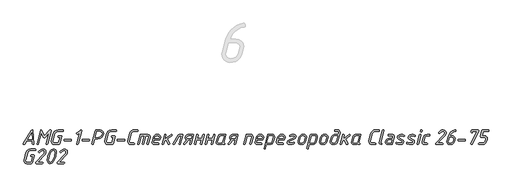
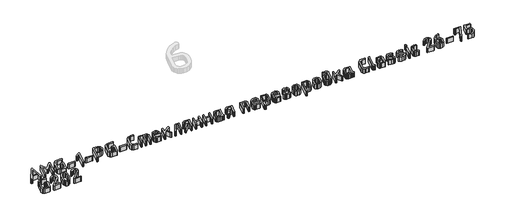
# One storey, part 8 of 22: 1 proxy.
"""IFC4 building model written with IfcOpenShell, lengths in millimetres."""

from ifc_helpers import new_model, si_unit, origin, origin_with_axes, place, context, project, spatial, polyline, outline, extrude, element, save

model = new_model("IFC4")

# Units and contexts
model_context = context("Model", 3, world=origin())
ifc_project = project(units=[si_unit("LENGTHUNIT", "METRE", prefix="MILLI")], contexts=[model_context])

# Site, building, storey
site = spatial("IfcSite", under=ifc_project)
building = spatial("IfcBuilding", under=site)
storey = spatial("IfcBuildingStorey", under=building, Name="Уровень 1", Elevation=0.0)

# Proxy
placement = place(None, origin())
element("IfcBuildingElementProxy", 1, Name="30", ObjectType="30", at=placement, inside=storey, context=model_context, shape_type="SweptSolid", body=[
    extrude(outline(polyline([(-36154.4219264, -35495.2113625), (-36210.5539274, -35495.2113625), (-36231.3287604, -35529.8494015), (-36237.7210168, -35533.5649005), (-36243.0345798, -35531.3276108), (-36245.1919664, -35526.0140477), (-36244.0733215, -35522.0188875), (-36161.4534084, -35386.2633437), (-36154.9812489, -35382.7076511), (-36149.6277342, -35384.4455458), (-36147.4703477, -35389.6592298), (-36137.0429795, -35526.2537573), (-36138.9406806, -35531.7371147), (-36144.6337839, -35533.5649005), (-36149.9573349, -35531.7970421), (-36152.0248303, -35526.493467), (-36154.4219264, -35495.2113625)]), holes=[polyline([(-36155.5405713, -35479.8699473), (-36160.6543764, -35413.3904815), (-36201.3251073, -35479.8699473), (-36155.5405713, -35479.8699473)])]), origin_with_axes(), (0.0, 0.0, 1.0), 50.0),
    extrude(outline(polyline([(-36059.3371135, -35413.3505299), (-36089.9000891, -35527.9716762), (-36092.4370158, -35532.1665945), (-36097.0913775, -35533.5649005), (-36102.3649889, -35531.3276108), (-36104.6821818, -35526.2537573), (-36104.362569, -35523.976516), (-36068.0865143, -35388.3008754), (-36065.5595755, -35384.1059572), (-36060.9351776, -35382.7076511), (-36053.9036956, -35387.2621337), (-36029.8128796, -35444.5527311), (-35973.0816046, -35385.1047472), (-35967.7680415, -35382.7076511), (-35962.1348656, -35384.5654006), (-35960.2571403, -35390.1386491), (-35960.49685, -35392.2960356), (-35996.732953, -35527.9716762), (-35999.3198193, -35532.1665945), (-36003.8842898, -35533.5649005), (-36009.1778771, -35531.3276108), (-36011.5150458, -35526.2537573), (-36011.1554814, -35523.976516), (-35982.5101827, -35416.6665129), (-36027.0961706, -35463.1701777), (-36032.4097337, -35465.4074674), (-36039.2414576, -35460.8929364), (-36059.3371135, -35413.3505299)])), origin_with_axes(), (0.0, 0.0, 1.0), 50.0),
    extrude(outline(polyline([(-35842.6795754, -35398.0490663), (-35891.3406268, -35398.0490663), (-35904.0052846, -35400.8356905), (-35914.512556, -35409.1955633), (-35920.5452479, -35420.5817699), (-35940.7607585, -35495.6907818), (-35941.5597906, -35501.2840061), (-35936.3860581, -35513.5491479), (-35923.5016664, -35518.2234853), (-35884.6287576, -35518.2234853), (-35868.4883104, -35459.4147271), (-35882.2316615, -35459.4147271), (-35887.8648374, -35457.4970502), (-35889.7425627, -35451.7440195), (-35887.8648374, -35445.9909888), (-35882.2316615, -35444.0733119), (-35856.782491, -35444.0733119), (-35852.3478631, -35445.4316663), (-35850.8696539, -35449.5067298), (-35850.9895087, -35451.5442615), (-35871.1251161, -35526.0939509), (-35874.6108934, -35531.6971631), (-35880.9931618, -35533.5649005), (-35927.5767298, -35533.5649005), (-35941.7995002, -35529.4199218), (-35952.8261424, -35516.9849857), (-35957.0210606, -35502.1229897), (-35956.2220285, -35495.8505882), (-35936.1263727, -35420.4219634), (-35926.1784238, -35399.6471304), (-35909.5186057, -35386.9425209), (-35887.2256117, -35382.7076511), (-35842.6795754, -35382.7076511), (-35837.0763632, -35384.625328), (-35835.2086258, -35390.3783587), (-35837.0763632, -35396.1313894), (-35842.6795754, -35398.0490663)])), origin_with_axes(), (0.0, 0.0, 1.0), 50.0),
    extrude(outline(polyline([(-35758.9809691, -35495.2113625), (-35821.0657587, -35495.2113625), (-35826.6689709, -35493.2936856), (-35828.5367083, -35487.5406549), (-35826.6689709, -35481.7876242), (-35821.0657587, -35479.8699473), (-35758.9809691, -35479.8699473), (-35753.3777569, -35481.7876242), (-35751.5100195, -35487.5406549), (-35753.3777569, -35493.2936856), (-35758.9809691, -35495.2113625)])), origin_with_axes(), (0.0, 0.0, 1.0), 50.0),
    extrude(outline(polyline([(-35667.0123811, -35409.7948373), (-35688.4663914, -35426.294849), (-35694.0596157, -35427.7730582), (-35699.1134934, -35424.9964219), (-35700.5317752, -35419.3432702), (-35697.5753567, -35414.3493199), (-35658.5026899, -35385.2645536), (-35654.068062, -35382.7076511), (-35648.4348861, -35384.5654006), (-35646.5571608, -35390.1386491), (-35646.7968704, -35392.2960356), (-35683.0329735, -35527.9716762), (-35685.6198398, -35532.1665945), (-35690.1843103, -35533.5649005), (-35695.4778976, -35531.3276108), (-35697.8150663, -35526.2537573), (-35697.4555019, -35523.976516), (-35667.0123811, -35409.7948373)])), origin_with_axes(), (0.0, 0.0, 1.0), 50.0),
    extrude(outline(polyline([(-35572.3270842, -35495.2113625), (-35634.4118738, -35495.2113625), (-35640.015086, -35493.2936856), (-35641.8828234, -35487.5406549), (-35640.015086, -35481.7876242), (-35634.4118738, -35479.8699473), (-35572.3270842, -35479.8699473), (-35566.723872, -35481.7876242), (-35564.8561346, -35487.5406549), (-35566.723872, -35493.2936856), (-35572.3270842, -35495.2113625)])), origin_with_axes(), (0.0, 0.0, 1.0), 50.0),
    extrude(outline(polyline([(-35481.7168507, -35474.7561423), (-35512.7592455, -35474.7561423), (-35527.3815318, -35528.091531), (-35529.978386, -35532.1965582), (-35534.5728202, -35533.5649005), (-35539.8464317, -35531.3276108), (-35542.1636246, -35526.2537573), (-35541.8440118, -35523.976516), (-35506.1672311, -35390.2585039), (-35502.7114176, -35384.5953643), (-35496.2592338, -35382.7076511), (-35457.386325, -35382.7076511), (-35440.2570756, -35387.731565), (-35427.063059, -35402.8033069), (-35422.0691088, -35421.1810439), (-35422.948044, -35428.7318967), (-35434.9834641, -35453.3620594), (-35455.3487933, -35469.162918), (-35481.7168507, -35474.7561423)]), holes=[polyline([(-35477.6417873, -35459.4147271), (-35461.1917151, -35455.5194459), (-35446.8391021, -35443.8336023), (-35439.8575596, -35432.7769964), (-35437.5303788, -35421.1810439), (-35440.4768094, -35409.3653576), (-35449.3161014, -35401.085388), (-35461.6211948, -35398.0490663), (-35492.623638, -35398.0490663), (-35508.7640853, -35459.4147271), (-35477.6417873, -35459.4147271)])]), origin_with_axes(), (0.0, 0.0, 1.0), 50.0),
    extrude(outline(polyline([(-35295.5024334, -35398.0490663), (-35344.1634847, -35398.0490663), (-35356.8281426, -35400.8356905), (-35367.3354139, -35409.1955633), (-35373.3681058, -35420.5817699), (-35393.5836165, -35495.6907818), (-35394.3826485, -35501.2840061), (-35389.2089161, -35513.5491479), (-35376.3245244, -35518.2234853), (-35337.4516156, -35518.2234853), (-35321.3111683, -35459.4147271), (-35335.0545194, -35459.4147271), (-35340.6876953, -35457.4970502), (-35342.5654206, -35451.7440195), (-35340.6876953, -35445.9909888), (-35335.0545194, -35444.0733119), (-35309.6053489, -35444.0733119), (-35305.1707211, -35445.4316663), (-35303.6925118, -35449.5067298), (-35303.8123666, -35451.5442615), (-35323.9479741, -35526.0939509), (-35327.4337513, -35531.6971631), (-35333.8160198, -35533.5649005), (-35380.3995878, -35533.5649005), (-35394.6223581, -35529.4199218), (-35405.6490003, -35516.9849857), (-35409.8439185, -35502.1229897), (-35409.0448865, -35495.8505882), (-35388.9492306, -35420.4219634), (-35379.0012817, -35399.6471304), (-35362.3414637, -35386.9425209), (-35340.0484697, -35382.7076511), (-35295.5024334, -35382.7076511), (-35289.8992212, -35384.625328), (-35288.0314838, -35390.3783587), (-35289.8992212, -35396.1313894), (-35295.5024334, -35398.0490663)])), origin_with_axes(), (0.0, 0.0, 1.0), 50.0),
    extrude(outline(polyline([(-35211.803827, -35495.2113625), (-35273.8886167, -35495.2113625), (-35279.4918289, -35493.2936856), (-35281.3595662, -35487.5406549), (-35279.4918289, -35481.7876242), (-35273.8886167, -35479.8699473), (-35211.803827, -35479.8699473), (-35206.2006148, -35481.7876242), (-35204.3328774, -35487.5406549), (-35206.2006148, -35493.2936856), (-35211.803827, -35495.2113625)])), origin_with_axes(), (0.0, 0.0, 1.0), 50.0),
    extrude(outline(polyline([(-35047.2831297, -35434.4050242), (-35044.7262271, -35430.1501786), (-35040.0119381, -35428.7318967), (-34968.0591028, -35428.7318967), (-34955.8339125, -35431.7382547), (-34947.3641729, -35440.7573289), (-34944.3278511, -35452.6629063), (-34945.1268832, -35458.6955982), (-34963.7443297, -35528.0116278), (-34966.331196, -35532.1765824), (-34970.8956665, -35533.5649005), (-34976.1892538, -35531.3675624), (-34978.5264225, -35526.3336606), (-34978.1668581, -35524.0564192), (-34960.6680564, -35458.9752595), (-34959.8690243, -35453.4619384), (-34962.915334, -35446.4204685), (-34972.054263, -35444.0733119), (-34987.5954362, -35444.0733119), (-35010.3278978, -35528.0116278), (-35012.914764, -35532.1765824), (-35017.4792345, -35533.5649005), (-35022.7728218, -35531.3675624), (-35025.1099905, -35526.3336606), (-35024.7903777, -35524.0564192), (-35003.0567062, -35444.0733119), (-35034.2189558, -35444.0733119), (-35056.9114658, -35528.0116278), (-35059.5083199, -35532.1765824), (-35064.1027542, -35533.5649005), (-35069.3763656, -35531.3475866), (-35071.6935585, -35526.293709), (-35071.3739457, -35524.0164676), (-35047.2831297, -35434.4050242)])), origin_with_axes(), (0.0, 0.0, 1.0), 50.0),
    extrude(outline(polyline([(-35112.004725, -35518.2234853), (-35106.3715492, -35520.1411622), (-35104.4938239, -35525.8941929), (-35106.3715492, -35531.6472236), (-35112.004725, -35533.5649005), (-35145.0447, -35533.5649005), (-35159.397313, -35529.3899581), (-35170.4139673, -35516.8651309), (-35174.4890307, -35501.9232317), (-35173.6899987, -35495.8505882), (-35153.7141976, -35420.4219634), (-35146.8924616, -35403.9219518), (-35136.4551055, -35392.1362292), (-35122.4021295, -35385.0647956), (-35104.7335335, -35382.7076511), (-35075.8485252, -35382.7076511), (-35070.2153493, -35384.625328), (-35068.337624, -35390.3783587), (-35070.2153493, -35396.1313894), (-35075.8485252, -35398.0490663), (-35108.8085969, -35398.0490663), (-35121.3533999, -35400.8356905), (-35131.9805261, -35409.1955633), (-35138.1330728, -35420.5817699), (-35158.2287286, -35495.6907818), (-35159.0277607, -35501.2840061), (-35153.8540282, -35513.5491479), (-35140.9696366, -35518.2234853), (-35112.004725, -35518.2234853)])), origin_with_axes(), (0.0, 0.0, 1.0), 50.0),
    extrude(outline(polyline([(-34837.5372188, -35465.4873706), (-34843.5699107, -35487.5406549), (-34905.6147487, -35487.5406549), (-34909.6099089, -35502.8820701), (-34910.408941, -35508.4752944), (-34907.3626313, -35515.7864376), (-34898.2237023, -35518.2234853), (-34861.4282768, -35518.2234853), (-34855.7951009, -35520.1411622), (-34853.9173756, -35525.8941929), (-34855.7951009, -35531.6472236), (-34861.4282768, -35533.5649005), (-34902.2188625, -35533.5649005), (-34911.2778883, -35531.80703), (-34918.9585838, -35526.5334186), (-34924.2022316, -35518.8227594), (-34925.9501142, -35509.7537457), (-34925.1510821, -35503.601199), (-34915.1631816, -35466.1665478), (-34908.3064879, -35448.9274315), (-34898.4434361, -35437.4013943), (-34884.6950911, -35430.8992711), (-34866.1825175, -35428.7318967), (-34854.6614742, -35430.804386), (-34845.1080474, -35437.0218541), (-34838.6808334, -35446.2756439), (-34836.5384287, -35457.4570986), (-34837.5372188, -35465.4873706)]), holes=[polyline([(-34853.1183436, -35465.1677578), (-34851.8798439, -35457.3771954), (-34856.4742782, -35447.3992827), (-34870.2575809, -35444.0733119), (-34889.1946403, -35449.3469234), (-34895.4570539, -35455.9389377), (-34899.5820568, -35465.1677578), (-34901.6595401, -35472.1992397), (-34855.0360205, -35472.1992397), (-34853.1183436, -35465.1677578)])]), origin_with_axes(), (0.0, 0.0, 1.0), 50.0),
    extrude(outline(polyline([(-34778.9681701, -35485.2634136), (-34799.063826, -35500.7246836), (-34806.3350176, -35528.0116278), (-34808.8719443, -35532.1765824), (-34813.5263059, -35533.5649005), (-34818.7999174, -35531.3475866), (-34821.1171103, -35526.293709), (-34820.7974975, -35524.0164676), (-34796.7066815, -35434.2851694), (-34794.1797426, -35430.1202149), (-34789.5553447, -35428.7318967), (-34783.9221688, -35430.5796583), (-34782.0444435, -35436.1229431), (-34782.2442015, -35438.2803296), (-34792.5916664, -35476.9534804), (-34731.9051829, -35431.2887992), (-34727.3906519, -35428.7318967), (-34722.1370162, -35431.009138), (-34719.7598959, -35436.1229431), (-34722.8361692, -35442.2355382), (-34766.8228831, -35475.9147387), (-34744.6497439, -35522.777968), (-34743.8507119, -35525.9740961), (-34746.1279532, -35531.2876592), (-34751.4814679, -35533.5649005), (-34758.1533854, -35529.2501275), (-34778.9681701, -35485.2634136)])), origin_with_axes(), (0.0, 0.0, 1.0), 50.0),
    extrude(outline(polyline([(-34617.2041333, -35428.7318967), (-34611.5709574, -35430.5796583), (-34609.6932321, -35436.1229431), (-34609.9329417, -35438.2803296), (-34634.1436126, -35528.0116278), (-34636.7304788, -35532.1765824), (-34641.2949494, -35533.5649005), (-34646.5885367, -35531.3675624), (-34648.9257054, -35526.3336606), (-34648.566141, -35524.0564192), (-34626.9922758, -35444.0733119), (-34644.0116583, -35444.0733119), (-34697.1073375, -35530.0491595), (-34702.980223, -35533.5649005), (-34708.9130359, -35531.7770663), (-34710.9705434, -35526.4135638), (-34709.8119469, -35522.2186455), (-34654.7186877, -35432.3674925), (-34648.2065765, -35428.7318967), (-34617.2041333, -35428.7318967)])), origin_with_axes(), (0.0, 0.0, 1.0), 50.0),
    extrude(outline(polyline([(-34547.3687329, -35487.5406549), (-34588.2791734, -35531.2477076), (-34593.6326881, -35533.5649005), (-34599.2259124, -35531.707151), (-34601.2234925, -35526.1339025), (-34599.066106, -35520.5406783), (-34567.2646307, -35486.5019133), (-34579.4698452, -35478.0321736), (-34584.0842552, -35464.1290161), (-34583.405078, -35458.1362758), (-34577.8617932, -35444.4977976), (-34570.1011945, -35435.4637416), (-34559.2143829, -35430.4148579), (-34544.2924595, -35428.7318967), (-34507.497034, -35428.7318967), (-34502.2034467, -35430.8892832), (-34499.866278, -35436.0030883), (-34500.2258424, -35438.2803296), (-34524.3965617, -35528.0116278), (-34526.9934158, -35532.1765824), (-34531.5878501, -35533.5649005), (-34537.1910623, -35531.6771873), (-34539.0587997, -35526.0140477), (-34538.8590416, -35523.8167096), (-34529.3106088, -35487.5406549), (-34547.3687329, -35487.5406549)]), holes=[polyline([(-34556.3578434, -35472.1992397), (-34525.3154485, -35472.1992397), (-34517.1253701, -35444.0733119), (-34548.2876197, -35444.0733119), (-34560.7824833, -35447.5890529), (-34568.0636628, -35458.1362758), (-34568.74284, -35463.2500809), (-34565.6465908, -35469.96195), (-34556.3578434, -35472.1992397)])]), origin_with_axes(), (0.0, 0.0, 1.0), 50.0),
    extrude(outline(polyline([(-34419.3637998, -35487.5406549), (-34465.9473679, -35487.5406549), (-34476.4945908, -35527.8518214), (-34479.0614812, -35532.1366308), (-34483.805734, -35533.5649005), (-34489.0593697, -35531.3475866), (-34491.3965384, -35526.293709), (-34491.0769256, -35524.0164676), (-34466.9861095, -35434.2851694), (-34464.4491828, -35430.1202149), (-34459.7948211, -35428.7318967), (-34454.4812581, -35430.80938), (-34452.2040167, -35435.8832335), (-34452.4037748, -35437.9607168), (-34461.9522077, -35472.1992397), (-34415.2487848, -35472.1992397), (-34404.7015619, -35434.125363), (-34402.174623, -35430.0802632), (-34397.5502251, -35428.7318967), (-34391.9170492, -35430.5796583), (-34390.0393239, -35436.1229431), (-34390.2790335, -35438.2803296), (-34414.3698496, -35528.0116278), (-34416.8967884, -35532.1765824), (-34421.5211863, -35533.5649005), (-34426.7947978, -35531.307635), (-34429.1119907, -35526.1339025), (-34428.7923779, -35523.8167096), (-34419.3637998, -35487.5406549)])), origin_with_axes(), (0.0, 0.0, 1.0), 50.0),
    extrude(outline(polyline([(-34309.4169909, -35487.5406549), (-34356.0005589, -35487.5406549), (-34366.5477819, -35527.8518214), (-34369.1146723, -35532.1366308), (-34373.8589251, -35533.5649005), (-34379.1125607, -35531.3475866), (-34381.4497295, -35526.293709), (-34381.1301167, -35524.0164676), (-34357.0393006, -35434.2851694), (-34354.5023739, -35430.1202149), (-34349.8480122, -35428.7318967), (-34344.5344491, -35430.80938), (-34342.2572078, -35435.8832335), (-34342.4569658, -35437.9607168), (-34352.0053987, -35472.1992397), (-34305.3019759, -35472.1992397), (-34294.754753, -35434.125363), (-34292.2278141, -35430.0802632), (-34287.6034162, -35428.7318967), (-34281.9702403, -35430.5796583), (-34280.092515, -35436.1229431), (-34280.3322246, -35438.2803296), (-34304.4230407, -35528.0116278), (-34306.9499795, -35532.1765824), (-34311.5743774, -35533.5649005), (-34316.8479889, -35531.307635), (-34319.1651818, -35526.1339025), (-34318.845569, -35523.8167096), (-34309.4169909, -35487.5406549)])), origin_with_axes(), (0.0, 0.0, 1.0), 50.0),
    extrude(outline(polyline([(-34242.538009, -35533.5649005), (-34251.5970348, -35531.8369937), (-34259.2777303, -35526.6532734), (-34264.5213781, -35519.0225174), (-34266.2692607, -35509.9535037), (-34265.4702286, -35503.601199), (-34253.4447964, -35458.6955982), (-34247.8815358, -35444.7924407), (-34239.8213001, -35435.523669), (-34228.9544643, -35430.4298398), (-34214.332178, -35428.7318967), (-34175.4992208, -35428.7318967), (-34170.6051495, -35430.8693074), (-34169.6662869, -35436.2028463), (-34189.9217491, -35510.7525357), (-34190.2413619, -35512.7900674), (-34188.7431768, -35516.8651309), (-34184.2486216, -35518.2234853), (-34179.0449254, -35520.1411622), (-34178.4556393, -35525.8941929), (-34181.7915981, -35531.6472236), (-34188.2038302, -35533.5649005), (-34198.261646, -35531.3875382), (-34203.6651002, -35524.8554513), (-34212.8140171, -35531.3875382), (-34227.076739, -35533.5649005), (-34242.538009, -35533.5649005)]), holes=[polyline([(-34238.5428488, -35518.2234853), (-34223.0016756, -35518.2234853), (-34210.9962192, -35513.6690027), (-34203.3055358, -35503.401441), (-34187.2849434, -35444.0733119), (-34218.3273382, -35444.0733119), (-34231.0718992, -35447.778823), (-34237.9835264, -35458.8953562), (-34249.9290554, -35503.401441), (-34250.7280875, -35508.6750524), (-34247.6817778, -35515.8363771), (-34238.5428488, -35518.2234853)])]), origin_with_axes(), (0.0, 0.0, 1.0), 50.0),
    extrude(outline(polyline([(-34092.240082, -35487.5406549), (-34133.1505226, -35531.2477076), (-34138.5040372, -35533.5649005), (-34144.0972615, -35531.707151), (-34146.0948416, -35526.1339025), (-34143.9374551, -35520.5406783), (-34112.1359799, -35486.5019133), (-34124.3411943, -35478.0321736), (-34128.9556043, -35464.1290161), (-34128.2764271, -35458.1362758), (-34122.7331423, -35444.4977976), (-34114.9725436, -35435.4637416), (-34104.085732, -35430.4148579), (-34089.1638087, -35428.7318967), (-34052.3683832, -35428.7318967), (-34047.0747959, -35430.8892832), (-34044.7376272, -35436.0030883), (-34045.0971916, -35438.2803296), (-34069.2679108, -35528.0116278), (-34071.864765, -35532.1765824), (-34076.4591992, -35533.5649005), (-34082.0624114, -35531.6771873), (-34083.9301488, -35526.0140477), (-34083.7303908, -35523.8167096), (-34074.1819579, -35487.5406549), (-34092.240082, -35487.5406549)]), holes=[polyline([(-34101.2291925, -35472.1992397), (-34070.1867977, -35472.1992397), (-34061.9967193, -35444.0733119), (-34093.1589689, -35444.0733119), (-34105.6538324, -35447.5890529), (-34112.9350119, -35458.1362758), (-34113.6141891, -35463.2500809), (-34110.51794, -35469.96195), (-34101.2291925, -35472.1992397)])]), origin_with_axes(), (0.0, 0.0, 1.0), 50.0),
    extrude(outline(polyline([(-33960.5995532, -35434.4050242), (-33958.0426507, -35430.1501786), (-33953.3283616, -35428.7318967), (-33912.4179211, -35428.7318967), (-33903.0542643, -35430.4198519), (-33895.4185144, -35435.4837174), (-33890.339667, -35443.1244613), (-33888.6467178, -35452.5430515), (-33889.4457499, -35458.6955982), (-33908.1031481, -35528.0116278), (-33910.6700385, -35532.1765824), (-33915.2544848, -35533.5649005), (-33920.5280963, -35531.3675624), (-33922.8452892, -35526.3336606), (-33922.5256764, -35524.0564192), (-33905.0268747, -35458.9752595), (-33904.2278427, -35453.5817932), (-33907.2641644, -35446.4504322), (-33916.3731297, -35444.0733119), (-33947.5353793, -35444.0733119), (-33970.2278893, -35528.0116278), (-33972.8247434, -35532.1765824), (-33977.4191777, -35533.5649005), (-33982.6927891, -35531.3475866), (-33985.0099821, -35526.293709), (-33984.6903692, -35524.0164676), (-33960.5995532, -35434.4050242)])), origin_with_axes(), (0.0, 0.0, 1.0), 50.0),
    extrude(outline(polyline([(-33781.5364727, -35465.4873706), (-33787.5691646, -35487.5406549), (-33849.6140026, -35487.5406549), (-33853.6091628, -35502.8820701), (-33854.4081949, -35508.4752944), (-33851.3618852, -35515.7864376), (-33842.2229562, -35518.2234853), (-33805.4275307, -35518.2234853), (-33799.7943548, -35520.1411622), (-33797.9166295, -35525.8941929), (-33799.7943548, -35531.6472236), (-33805.4275307, -35533.5649005), (-33846.2181164, -35533.5649005), (-33855.2771422, -35531.80703), (-33862.9578377, -35526.5334186), (-33868.2014855, -35518.8227594), (-33869.9493681, -35509.7537457), (-33869.150336, -35503.601199), (-33859.1624355, -35466.1665478), (-33852.3057418, -35448.9274315), (-33842.44269, -35437.4013943), (-33828.694345, -35430.8992711), (-33810.1817714, -35428.7318967), (-33798.6607281, -35430.804386), (-33789.1073013, -35437.0218541), (-33782.6800873, -35446.2756439), (-33780.5376826, -35457.4570986), (-33781.5364727, -35465.4873706)]), holes=[polyline([(-33797.1175975, -35465.1677578), (-33795.8790978, -35457.3771954), (-33800.4735321, -35447.3992827), (-33814.2568348, -35444.0733119), (-33833.1938942, -35449.3469234), (-33839.4563078, -35455.9389377), (-33843.5813107, -35465.1677578), (-33845.658794, -35472.1992397), (-33799.0352744, -35472.1992397), (-33797.1175975, -35465.1677578)])]), origin_with_axes(), (0.0, 0.0, 1.0), 50.0),
    extrude(outline(polyline([(-33740.7059354, -35434.4449758), (-33738.1490328, -35430.1601665), (-33733.4347438, -35428.7318967), (-33692.5243033, -35428.7318967), (-33683.3604045, -35430.4747853), (-33675.684703, -35435.7034512), (-33670.4860008, -35443.3991286), (-33668.7531, -35452.5430515), (-33669.5521321, -35458.6955982), (-33681.6175159, -35503.601199), (-33687.1657946, -35517.4344412), (-33695.1810848, -35526.6532734), (-33706.2127209, -35531.8369937), (-33720.8100375, -35533.5649005), (-33751.8124807, -35533.5649005), (-33762.3996553, -35573.876067), (-33764.9265941, -35578.1608763), (-33769.5509921, -35579.5891461), (-33774.8445793, -35577.3518564), (-33777.1817481, -35572.2780029), (-33776.8221836, -35570.0007616), (-33740.7059354, -35434.4449758)]), holes=[polyline([(-33727.6417615, -35444.0733119), (-33747.8572721, -35518.2234853), (-33716.7349741, -35518.2234853), (-33703.9604493, -35514.5179742), (-33697.0388343, -35503.401441), (-33685.1332569, -35458.8953562), (-33684.3342248, -35453.50189), (-33687.3705466, -35446.4304564), (-33696.4795119, -35444.0733119), (-33727.6417615, -35444.0733119)])]), origin_with_axes(), (0.0, 0.0, 1.0), 50.0),
    extrude(outline(polyline([(-33561.6428548, -35465.4873706), (-33567.6755468, -35487.5406549), (-33629.7203848, -35487.5406549), (-33633.715545, -35502.8820701), (-33634.514577, -35508.4752944), (-33631.4682674, -35515.7864376), (-33622.3293384, -35518.2234853), (-33585.5339129, -35518.2234853), (-33579.900737, -35520.1411622), (-33578.0230117, -35525.8941929), (-33579.900737, -35531.6472236), (-33585.5339129, -35533.5649005), (-33626.3244986, -35533.5649005), (-33635.3835244, -35531.80703), (-33643.0642199, -35526.5334186), (-33648.3078677, -35518.8227594), (-33650.0557502, -35509.7537457), (-33649.2567182, -35503.601199), (-33639.2688177, -35466.1665478), (-33632.412124, -35448.9274315), (-33622.5490722, -35437.4013943), (-33608.8007272, -35430.8992711), (-33590.2881535, -35428.7318967), (-33578.7671103, -35430.804386), (-33569.2136834, -35437.0218541), (-33562.7864695, -35446.2756439), (-33560.6440648, -35457.4570986), (-33561.6428548, -35465.4873706)]), holes=[polyline([(-33577.2239797, -35465.1677578), (-33575.98548, -35457.3771954), (-33580.5799142, -35447.3992827), (-33594.363217, -35444.0733119), (-33613.3002763, -35449.3469234), (-33619.56269, -35455.9389377), (-33623.6876929, -35465.1677578), (-33625.7651762, -35472.1992397), (-33579.1416566, -35472.1992397), (-33577.2239797, -35465.1677578)])]), origin_with_axes(), (0.0, 0.0, 1.0), 50.0),
    extrude(outline(polyline([(-33489.0907455, -35530.6484336), (-33520.2130435, -35533.5649005), (-33528.1434365, -35531.9668364), (-33534.8353299, -35527.1726442), (-33539.3898125, -35520.261017), (-33540.9079734, -35512.3106482), (-33539.2100303, -35503.1517434), (-33534.116201, -35494.3723789), (-33518.5350762, -35482.7065111), (-33473.1900079, -35464.9679998), (-33465.9387921, -35459.7742915), (-33463.5217201, -35451.6241647), (-33465.8289252, -35445.9610251), (-33472.7505402, -35444.0733119), (-33490.6588459, -35445.6913518), (-33504.1924511, -35450.5454714), (-33507.8280469, -35451.5842131), (-33513.1216341, -35449.3069717), (-33515.338948, -35444.0733119), (-33511.5834974, -35437.4413459), (-33493.5453491, -35430.909259), (-33468.75538, -35428.7318967), (-33458.6476247, -35431.4985451), (-33451.0168687, -35439.7984905), (-33448.0604501, -35450.3057618), (-33450.5074858, -35460.823021), (-33457.8485927, -35471.1205465), (-33470.2335893, -35479.3505765), (-33515.5786577, -35496.969233), (-33522.8898008, -35502.2528324), (-33525.3268486, -35510.4329229), (-33523.0595951, -35516.2758447), (-33516.2578349, -35518.2234853), (-33494.663994, -35516.4855906), (-33475.1076848, -35511.2719066), (-33472.3909758, -35510.7125841), (-33466.7577999, -35512.5903094), (-33464.8800746, -35518.2234853), (-33467.3271102, -35523.477121), (-33474.6682171, -35527.4123538), (-33489.0907455, -35530.6484336)])), origin_with_axes(), (0.0, 0.0, 1.0), 50.0),
    extrude(outline(polyline([(-33427.3255687, -35496.1302494), (-33419.3751999, -35466.1665478), (-33412.5185061, -35448.9274315), (-33402.6554544, -35437.4013943), (-33388.9071093, -35430.8992711), (-33370.3945357, -35428.7318967), (-33358.8734925, -35430.8443376), (-33349.3200656, -35437.1816605), (-33342.8928516, -35446.6152326), (-33340.750447, -35458.016421), (-33341.749237, -35466.1665478), (-33349.6996058, -35496.1302494), (-33359.6076031, -35517.6641629), (-33375.2286796, -35529.5897161), (-33398.68027, -35533.5649005), (-33410.2063072, -35531.4524596), (-33419.7747159, -35525.1151367), (-33426.2169117, -35515.6815646), (-33428.3643103, -35504.2803762), (-33427.3255687, -35496.1302494)]), holes=[polyline([(-33365.2807306, -35495.970443), (-33357.3303618, -35466.3263542), (-33356.0918622, -35458.016421), (-33360.6862964, -35447.5590892), (-33374.4695991, -35444.0733119), (-33385.0517797, -35445.464127), (-33393.4665859, -35449.6365725), (-33399.7140177, -35456.5906482), (-33403.794075, -35466.3263542), (-33411.8642987, -35495.970443), (-33413.1427499, -35504.2803762), (-33408.5383278, -35514.737708), (-33394.7250614, -35518.2234853), (-33384.1054261, -35516.8326702), (-33375.6581593, -35512.6602247), (-33369.3832608, -35505.706149), (-33365.2807306, -35495.970443)])]), origin_with_axes(), (0.0, 0.0, 1.0), 50.0),
    extrude(outline(polyline([(-33300.9186997, -35434.4449758), (-33298.3617972, -35430.1601665), (-33293.6475081, -35428.7318967), (-33252.7370676, -35428.7318967), (-33243.5731689, -35430.4747853), (-33235.8974673, -35435.7034512), (-33230.6987651, -35443.3991286), (-33228.9658644, -35452.5430515), (-33229.7648964, -35458.6955982), (-33241.8302802, -35503.601199), (-33247.378559, -35517.4344412), (-33255.3938491, -35526.6532734), (-33266.4254853, -35531.8369937), (-33281.0228019, -35533.5649005), (-33312.0252451, -35533.5649005), (-33322.6124196, -35573.876067), (-33325.1393585, -35578.1608763), (-33329.7637564, -35579.5891461), (-33335.0573437, -35577.3518564), (-33337.3945124, -35572.2780029), (-33337.034948, -35570.0007616), (-33300.9186997, -35434.4449758)]), holes=[polyline([(-33287.8545258, -35444.0733119), (-33308.0700365, -35518.2234853), (-33276.9477384, -35518.2234853), (-33264.1732137, -35514.5179742), (-33257.2515986, -35503.401441), (-33245.3460212, -35458.8953562), (-33244.5469892, -35453.50189), (-33247.5833109, -35446.4304564), (-33256.6922762, -35444.0733119), (-33287.8545258, -35444.0733119)])]), origin_with_axes(), (0.0, 0.0, 1.0), 50.0),
    extrude(outline(polyline([(-33207.4319508, -35496.1302494), (-33199.481582, -35466.1665478), (-33192.6248883, -35448.9274315), (-33182.7618366, -35437.4013943), (-33169.0134915, -35430.8992711), (-33150.5009179, -35428.7318967), (-33138.9798746, -35430.8443376), (-33129.4264478, -35437.1816605), (-33122.9992338, -35446.6152326), (-33120.8568291, -35458.016421), (-33121.8556192, -35466.1665478), (-33129.805988, -35496.1302494), (-33139.7139853, -35517.6641629), (-33155.3350617, -35529.5897161), (-33178.7866521, -35533.5649005), (-33190.3126893, -35531.4524596), (-33199.881098, -35525.1151367), (-33206.3232939, -35515.6815646), (-33208.4706925, -35504.2803762), (-33207.4319508, -35496.1302494)]), holes=[polyline([(-33145.3871128, -35495.970443), (-33137.436744, -35466.3263542), (-33136.1982443, -35458.016421), (-33140.7926786, -35447.5590892), (-33154.5759813, -35444.0733119), (-33165.1581619, -35445.464127), (-33173.5729681, -35449.6365725), (-33179.8203999, -35456.5906482), (-33183.9004572, -35466.3263542), (-33191.9706808, -35495.970443), (-33193.2491321, -35504.2803762), (-33188.64471, -35514.737708), (-33174.8314435, -35518.2234853), (-33164.2118083, -35516.8326702), (-33155.7645414, -35512.6602247), (-33149.4896429, -35505.706149), (-33145.3871128, -35495.970443)])]), origin_with_axes(), (0.0, 0.0, 1.0), 50.0),
    extrude(outline(polyline([(-32997.8458463, -35412.8711107), (-33019.8591791, -35495.8505882), (-33026.8457155, -35513.2744806), (-33036.8585858, -35524.8754271), (-33050.6169187, -35531.3925322), (-33068.8398432, -35533.5649005), (-33080.3658804, -35531.4524596), (-33089.9342891, -35525.1151367), (-33096.376485, -35515.6815646), (-33098.5238836, -35504.2803762), (-33097.4851419, -35496.1302494), (-33089.5347731, -35466.1665478), (-33082.6780794, -35448.9274315), (-33072.8150276, -35437.4013943), (-33059.0666826, -35430.8992711), (-33040.554109, -35428.7318967), (-33017.2623249, -35428.7318967), (-33013.2671647, -35413.3904815), (-33012.5080843, -35407.7972572), (-33015.5743698, -35400.486114), (-33024.7732261, -35398.0490663), (-33046.0274784, -35398.0490663), (-33051.6306906, -35396.1313894), (-33053.498428, -35390.3783587), (-33051.6306906, -35384.625328), (-33046.0274784, -35382.7076511), (-33020.7780659, -35382.7076511), (-33011.6441309, -35384.4655216), (-33003.9784173, -35389.7391331), (-32998.779715, -35397.4997318), (-32997.0468143, -35406.7185639), (-32997.8458463, -35412.8711107)]), holes=[polyline([(-33035.4403039, -35495.970443), (-33021.3373884, -35444.0733119), (-33044.6291724, -35444.0733119), (-33055.211353, -35445.464127), (-33063.6261592, -35449.6365725), (-33069.8735909, -35456.5906482), (-33073.9536483, -35466.3263542), (-33082.0238719, -35495.970443), (-33083.3023232, -35504.2803762), (-33078.697901, -35514.737708), (-33064.8846346, -35518.2234853), (-33054.2649994, -35516.8326702), (-33045.8177325, -35512.6602247), (-33039.542834, -35505.706149), (-33035.4403039, -35495.970443)])]), origin_with_axes(), (0.0, 0.0, 1.0), 50.0),
    extrude(outline(polyline([(-32953.3397616, -35485.2634136), (-32973.4354175, -35500.7246836), (-32980.706609, -35528.0116278), (-32983.2435358, -35532.1765824), (-32987.8978974, -35533.5649005), (-32993.1715089, -35531.3475866), (-32995.4887018, -35526.293709), (-32995.169089, -35524.0164676), (-32971.0782729, -35434.2851694), (-32968.5513341, -35430.1202149), (-32963.9269362, -35428.7318967), (-32958.2937603, -35430.5796583), (-32956.416035, -35436.1229431), (-32956.615793, -35438.2803296), (-32966.9632579, -35476.9534804), (-32906.2767744, -35431.2887992), (-32901.7622433, -35428.7318967), (-32896.5086077, -35431.009138), (-32894.1314873, -35436.1229431), (-32897.2077607, -35442.2355382), (-32941.1944746, -35475.9147387), (-32919.0213354, -35522.777968), (-32918.2223034, -35525.9740961), (-32920.4995447, -35531.2876592), (-32925.8530594, -35533.5649005), (-32932.5249769, -35529.2501275), (-32953.3397616, -35485.2634136)])), origin_with_axes(), (0.0, 0.0, 1.0), 50.0),
    extrude(outline(polyline([(-32856.6968362, -35533.5649005), (-32865.755862, -35531.8369937), (-32873.4365575, -35526.6532734), (-32878.6802052, -35519.0225174), (-32880.4280878, -35509.9535037), (-32879.6290558, -35503.601199), (-32867.6036236, -35458.6955982), (-32862.040363, -35444.7924407), (-32853.9801273, -35435.523669), (-32843.1132915, -35430.4298398), (-32828.4910051, -35428.7318967), (-32789.6580479, -35428.7318967), (-32784.7639767, -35430.8693074), (-32783.825114, -35436.2028463), (-32804.0805763, -35510.7525357), (-32804.4001891, -35512.7900674), (-32802.902004, -35516.8651309), (-32798.4074488, -35518.2234853), (-32793.2037526, -35520.1411622), (-32792.6144665, -35525.8941929), (-32795.9504252, -35531.6472236), (-32802.3626574, -35533.5649005), (-32812.4204732, -35531.3875382), (-32817.8239274, -35524.8554513), (-32826.9728443, -35531.3875382), (-32841.2355662, -35533.5649005), (-32856.6968362, -35533.5649005)]), holes=[polyline([(-32852.701676, -35518.2234853), (-32837.1605028, -35518.2234853), (-32825.1550464, -35513.6690027), (-32817.464363, -35503.401441), (-32801.4437705, -35444.0733119), (-32832.4861653, -35444.0733119), (-32845.2307264, -35447.778823), (-32852.1423536, -35458.8953562), (-32864.0878826, -35503.401441), (-32864.8869146, -35508.6750524), (-32861.840605, -35515.8363771), (-32852.701676, -35518.2234853)])]), origin_with_axes(), (0.0, 0.0, 1.0), 50.0),
    extrude(outline(polyline([(-32639.4799757, -35518.2234853), (-32633.8467998, -35520.1411622), (-32631.9690745, -35525.8941929), (-32633.8467998, -35531.6472236), (-32639.4799757, -35533.5649005), (-32672.5199506, -35533.5649005), (-32683.3917803, -35531.0629314), (-32692.9951467, -35523.5570242), (-32699.7219977, -35513.1446379), (-32701.9642814, -35501.9232317), (-32701.1652493, -35495.8505882), (-32681.1894483, -35420.4219634), (-32674.3677122, -35403.9219518), (-32663.9303562, -35392.1362292), (-32649.8773802, -35385.0647956), (-32632.2087841, -35382.7076511), (-32603.3237758, -35382.7076511), (-32597.6905999, -35384.625328), (-32595.8128746, -35390.3783587), (-32597.6905999, -35396.1313894), (-32603.3237758, -35398.0490663), (-32636.2838475, -35398.0490663), (-32645.7523772, -35399.687082), (-32654.5816813, -35404.601129), (-32661.5931875, -35411.8723206), (-32665.6083235, -35420.5817699), (-32685.7039793, -35495.6907818), (-32686.5030114, -35501.2840061), (-32681.3292789, -35513.5491479), (-32668.4448872, -35518.2234853), (-32639.4799757, -35518.2234853)])), origin_with_axes(), (0.0, 0.0, 1.0), 50.0),
    extrude(outline(polyline([(-32576.1167348, -35518.4631949), (-32570.4835589, -35520.3509081), (-32568.6058336, -35526.0140477), (-32570.4835589, -35531.6771873), (-32576.1167348, -35533.5649005), (-32590.1397471, -35528.3711923), (-32594.6043387, -35522.5582342), (-32596.0925359, -35515.5067764), (-32595.4133586, -35510.9522938), (-32562.6929965, -35388.3008754), (-32560.136094, -35384.1059572), (-32555.4218049, -35382.7076511), (-32549.788629, -35384.5654006), (-32547.9109038, -35390.1386491), (-32548.1506134, -35392.2960356), (-32579.8721854, -35510.9522938), (-32580.4315078, -35514.3481799), (-32576.1167348, -35518.4631949)])), origin_with_axes(), (0.0, 0.0, 1.0), 50.0),
    extrude(outline(polyline([(-32468.167506, -35533.5649005), (-32508.9580917, -35533.5649005), (-32518.0021356, -35531.7620845), (-32525.6378856, -35526.3536364), (-32530.8365878, -35518.4482131), (-32532.5694886, -35509.1544717), (-32529.7329248, -35493.353613), (-32521.2232336, -35481.507963), (-32508.7882974, -35474.5264206), (-32492.8176445, -35472.1992397), (-32461.6553949, -35472.1992397), (-32457.7001863, -35458.1362758), (-32456.9011542, -35453.0224707), (-32459.9674397, -35446.3106016), (-32469.1662961, -35444.0733119), (-32498.3709172, -35444.0733119), (-32504.0040931, -35442.155635), (-32505.8818184, -35436.4026043), (-32504.0040931, -35430.6495736), (-32498.3709172, -35428.7318967), (-32465.0912326, -35428.7318967), (-32455.8923763, -35430.4598035), (-32448.2716082, -35435.6435238), (-32443.1478152, -35443.3242193), (-32441.4398842, -35452.5430515), (-32442.2389163, -35458.6955982), (-32460.8963144, -35527.891773), (-32463.4931686, -35532.1466187), (-32468.167506, -35533.5649005)]), holes=[polyline([(-32465.7704099, -35487.5406549), (-32496.7728531, -35487.5406549), (-32505.012871, -35488.9938945), (-32511.5149943, -35493.353613), (-32515.7398762, -35500.0405124), (-32517.1481702, -35508.4752944), (-32514.0718968, -35515.7864376), (-32504.8430767, -35518.2234853), (-32473.8406335, -35518.2234853), (-32465.7704099, -35487.5406549)])]), origin_with_axes(), (0.0, 0.0, 1.0), 50.0),
    extrude(outline(polyline([(-32348.4325546, -35449.986149), (-32361.446789, -35445.5515212), (-32378.6759174, -35444.0733119), (-32389.3429951, -35448.3081817), (-32393.7776229, -35458.6556466), (-32389.7025595, -35466.446209), (-32357.7412779, -35483.3856883), (-32347.8532564, -35491.5058514), (-32344.5572492, -35501.8033769), (-32348.7122158, -35517.2946106), (-32361.1771156, -35528.9305147), (-32379.5548526, -35533.5649005), (-32400.099964, -35531.3875382), (-32422.183212, -35524.8554513), (-32425.8188078, -35518.2234853), (-32423.6614213, -35512.9298981), (-32418.3079066, -35510.7125841), (-32414.9120204, -35511.5116162), (-32397.6329525, -35516.545518), (-32375.599644, -35518.2234853), (-32365.0923726, -35513.7089543), (-32360.3780836, -35503.401441), (-32362.1059904, -35498.577285), (-32367.2897108, -35494.4922337), (-32396.2945739, -35479.1108669), (-32406.1526317, -35470.5911878), (-32409.438651, -35459.0152111), (-32405.2936722, -35444.1032756), (-32392.8587361, -35433.0067181), (-32374.6807571, -35428.7318967), (-32355.9933953, -35431.0890412), (-32339.0039765, -35438.1604748), (-32336.2872675, -35444.0733119), (-32338.5045815, -35449.3668992), (-32343.7582171, -35451.5842131), (-32348.4325546, -35449.986149)])), origin_with_axes(), (0.0, 0.0, 1.0), 50.0),
    extrude(outline(polyline([(-32238.4857457, -35449.986149), (-32251.49998, -35445.5515212), (-32268.7291084, -35444.0733119), (-32279.3961862, -35448.3081817), (-32283.830814, -35458.6556466), (-32279.7557506, -35466.446209), (-32247.7944689, -35483.3856883), (-32237.9064474, -35491.5058514), (-32234.6104403, -35501.8033769), (-32238.7654069, -35517.2946106), (-32251.2303067, -35528.9305147), (-32269.6080437, -35533.5649005), (-32290.1531551, -35531.3875382), (-32312.2364031, -35524.8554513), (-32315.8719989, -35518.2234853), (-32313.7146124, -35512.9298981), (-32308.3610977, -35510.7125841), (-32304.9652115, -35511.5116162), (-32287.6861436, -35516.545518), (-32265.6528351, -35518.2234853), (-32255.1455637, -35513.7089543), (-32250.4312747, -35503.401441), (-32252.1591815, -35498.577285), (-32257.3429018, -35494.4922337), (-32286.347765, -35479.1108669), (-32296.2058228, -35470.5911878), (-32299.491842, -35459.0152111), (-32295.3468633, -35444.1032756), (-32282.9119272, -35433.0067181), (-32264.7339482, -35428.7318967), (-32246.0465864, -35431.0890412), (-32229.0571676, -35438.1604748), (-32226.3404586, -35444.0733119), (-32228.5577725, -35449.3668992), (-32233.8114082, -35451.5842131), (-32238.4857457, -35449.986149)])), origin_with_axes(), (0.0, 0.0, 1.0), 50.0),
    extrude(outline(polyline([(-32107.7241521, -35533.5649005), (-32133.0934194, -35533.5649005), (-32142.1524452, -35531.80703), (-32149.8331407, -35526.5334186), (-32155.0767884, -35518.8227594), (-32156.824671, -35509.7537457), (-32156.025639, -35503.601199), (-32144.0002068, -35458.6955982), (-32136.1497169, -35441.4664698), (-32123.7846961, -35431.80817), (-32104.8875883, -35428.7318967), (-32083.5534328, -35428.7318967), (-32077.9202569, -35430.6495736), (-32076.0425316, -35436.4026043), (-32077.9202569, -35442.155635), (-32083.5534328, -35444.0733119), (-32108.8827485, -35444.0733119), (-32121.6273096, -35447.778823), (-32128.5389367, -35458.8953562), (-32140.4844658, -35503.401441), (-32141.363401, -35508.11573), (-32138.2971156, -35515.6965465), (-32129.0982592, -35518.2234853), (-32107.7241521, -35518.2234853), (-32102.1209399, -35520.1411622), (-32100.2532025, -35525.8941929), (-32102.1209399, -35531.6472236), (-32107.7241521, -35533.5649005)])), origin_with_axes(), (0.0, 0.0, 1.0), 50.0),
    extrude(outline(polyline([(-32183.6721476, -35434.125363), (-32181.1352209, -35429.9604084), (-32176.4808592, -35428.5720903), (-32171.1672962, -35430.7294768), (-32168.8900548, -35435.9631367), (-32169.0898129, -35438.1205232), (-32193.1806289, -35528.0116278), (-32195.7475193, -35532.1765824), (-32200.4917721, -35533.5649005), (-32205.7454078, -35531.3475866), (-32208.0825765, -35526.293709), (-32207.7629637, -35524.0164676), (-32183.6721476, -35434.125363)])), origin_with_axes(), (0.0, 0.0, 1.0), 50.0),
    extrude(outline(polyline([(-32173.5244407, -35395.6919218), (-32171.486909, -35388.3008754), (-32168.9599702, -35384.1059572), (-32164.3355722, -35382.7076511), (-32158.7023963, -35384.5554127), (-32156.824671, -35390.0986975), (-32157.0643806, -35392.256084), (-32159.1019123, -35399.6471304), (-32161.6887786, -35403.8420486), (-32166.2532491, -35405.2403547), (-32171.886425, -35403.3925931), (-32173.7641503, -35397.8493083), (-32173.5244407, -35395.6919218)])), origin_with_axes(), (0.0, 0.0, 1.0), 50.0),
    extrude(outline(polyline([(-31974.8451236, -35417.8251093), (-31980.3983962, -35420.5418183), (-31985.6919835, -35418.2645769), (-31987.9092974, -35413.0309171), (-31986.0715237, -35408.1568216), (-31966.7748999, -35389.5793266), (-31954.8093951, -35384.42557), (-31941.2058746, -35382.7076511), (-31926.2639754, -35386.3532348), (-31915.3971397, -35397.2899858), (-31911.2022215, -35412.4715946), (-31914.6280713, -35427.7430945), (-31924.905621, -35442.7149574), (-31993.4625701, -35518.2234853), (-31948.4770662, -35518.2234853), (-31942.8438903, -35520.1411622), (-31940.966165, -35525.8941929), (-31942.8438903, -35531.6472236), (-31948.4770662, -35533.5649005), (-32010.5219042, -35533.5649005), (-32016.1251164, -35531.6871752), (-32017.9928538, -35526.0539993), (-32016.0751769, -35520.9002427), (-31935.7325051, -35432.4873473), (-31928.8408538, -35422.5693621), (-31926.5436366, -35413.1108203), (-31931.227962, -35401.8145048), (-31945.280938, -35398.0490663), (-31954.7394798, -35400.6359325), (-31965.8560131, -35408.3965312), (-31974.8451236, -35417.8251093)])), origin_with_axes(), (0.0, 0.0, 1.0), 50.0),
    extrude(outline(polyline([(-31872.3293126, -35533.5649005), (-31886.6219983, -35529.4199218), (-31897.6985799, -35516.9849857), (-31901.7736434, -35502.0830381), (-31900.9746113, -35496.0103946), (-31888.9092275, -35450.4655682), (-31879.9800444, -35427.293639), (-31866.5363303, -35408.3565796), (-31846.1610133, -35392.4358662), (-31820.5120847, -35382.7076511), (-31818.5944078, -35382.7076511), (-31812.9612319, -35384.625328), (-31811.0835066, -35390.3783587), (-31812.3319942, -35395.4322363), (-31816.0774569, -35397.5696471), (-31841.3268694, -35407.2379348), (-31859.9942555, -35423.5381884), (-31870.5314905, -35444.0733119), (-31848.1186418, -35444.0733119), (-31836.2929676, -35446.1058496), (-31826.7045831, -35452.2034629), (-31820.3522783, -35461.527168), (-31818.2348434, -35473.2379814), (-31819.2735851, -35481.3481566), (-31823.3486485, -35496.2900558), (-31833.2866095, -35517.6941266), (-31848.797819, -35529.7295467), (-31872.3293126, -35533.5649005)]), holes=[polyline([(-31868.374104, -35518.2234853), (-31857.7994143, -35516.8451551), (-31849.3671293, -35512.7101642), (-31843.077249, -35505.8185129), (-31838.9297733, -35496.170201), (-31834.8547099, -35481.4680114), (-31833.5762586, -35473.2379814), (-31838.2406082, -35462.8705407), (-31852.2336568, -35459.4147271), (-31875.5254408, -35459.4147271), (-31885.5133413, -35496.170201), (-31886.4322282, -35501.6435705), (-31881.2584957, -35513.6490269), (-31868.374104, -35518.2234853)])]), origin_with_axes(), (0.0, 0.0, 1.0), 50.0),
    extrude(outline(polyline([(-31719.0749671, -35495.2113625), (-31781.1597567, -35495.2113625), (-31786.7629689, -35493.2936856), (-31788.6307063, -35487.5406549), (-31786.7629689, -35481.7876242), (-31781.1597567, -35479.8699473), (-31719.0749671, -35479.8699473), (-31713.4717549, -35481.7876242), (-31711.6040175, -35487.5406549), (-31713.4717549, -35493.2936856), (-31719.0749671, -35495.2113625)])), origin_with_axes(), (0.0, 0.0, 1.0), 50.0),
    extrude(outline(polyline([(-31595.0651942, -35398.5684371), (-31638.9320533, -35398.5684371), (-31640.8497302, -35406.9582735), (-31644.0558463, -35412.4516188), (-31649.8388407, -35413.4304331), (-31654.8627546, -35409.6949583), (-31655.3921134, -35403.202823), (-31652.6754044, -35391.0575359), (-31650.0585745, -35385.42436), (-31645.1645032, -35383.5466347), (-31583.1196652, -35383.5466347), (-31577.4864893, -35385.42436), (-31575.608764, -35391.0575359), (-31576.2879412, -35394.4534221), (-31643.5664391, -35529.4898371), (-31648.001067, -35533.2053361), (-31653.9938073, -35533.1254329), (-31657.4296451, -35528.3312407), (-31656.9901774, -35522.777968), (-31595.0651942, -35398.5684371)])), origin_with_axes(), (0.0, 0.0, 1.0), 50.0),
    extrude(outline(polyline([(-31542.3690311, -35533.5649005), (-31571.3738942, -35533.5649005), (-31576.9771064, -35531.6472236), (-31578.8448438, -35525.8941929), (-31576.9771064, -35520.1411622), (-31571.3738942, -35518.2234853), (-31538.4138225, -35518.2234853), (-31527.8391328, -35516.8451551), (-31519.4068478, -35512.7101642), (-31513.1169674, -35505.8185129), (-31508.9694917, -35496.170201), (-31504.8944283, -35481.4680114), (-31503.6159771, -35473.2379814), (-31508.2803266, -35462.8705407), (-31522.2733752, -35459.4147271), (-31551.2382867, -35459.4147271), (-31556.531874, -35457.0975342), (-31558.7491879, -35451.7440195), (-31558.5094783, -35449.786391), (-31542.4888859, -35388.5006334), (-31539.9319834, -35384.1558967), (-31535.2176943, -35382.7076511), (-31480.9234671, -35382.7076511), (-31475.2902912, -35384.625328), (-31473.4125659, -35390.3783587), (-31475.2902912, -35396.1313894), (-31480.9234671, -35398.0490663), (-31529.424712, -35398.0490663), (-31541.4900958, -35444.0733119), (-31518.1583602, -35444.0733119), (-31506.2727586, -35446.0908678), (-31496.7443015, -35452.1435355), (-31490.4818879, -35461.4522588), (-31488.3944167, -35473.2379814), (-31489.4331583, -35481.3481566), (-31493.5082217, -35496.2900558), (-31503.4861344, -35517.754054), (-31518.8774891, -35529.7295467), (-31542.3690311, -35533.5649005)])), origin_with_axes(), (0.0, 0.0, 1.0), 50.0),
    extrude(outline(polyline([(-36076.1167864, -35613.8493549), (-36081.6700591, -35616.5660638), (-36086.9636463, -35614.2888225), (-36089.1809602, -35609.0551627), (-36087.3431865, -35604.1810672), (-36068.0465627, -35585.6035722), (-36056.0810579, -35580.4498156), (-36042.4775374, -35578.7318967), (-36027.5356382, -35582.3774804), (-36016.6688025, -35593.3142314), (-36012.4738843, -35608.4958402), (-36015.8997341, -35623.7673401), (-36026.1772838, -35638.739203), (-36094.7342329, -35714.2477309), (-36049.748729, -35714.2477309), (-36044.1155531, -35716.1654078), (-36042.2378278, -35721.9184385), (-36044.1155531, -35727.6714692), (-36049.748729, -35729.5891461), (-36111.793567, -35729.5891461), (-36117.3967792, -35727.7114208), (-36119.2645166, -35722.0782449), (-36117.3468397, -35716.9244883), (-36037.0041679, -35628.5115929), (-36030.1125166, -35618.5936077), (-36027.8152995, -35609.1350659), (-36032.4996248, -35597.8387504), (-36046.5526008, -35594.0733119), (-36056.0111426, -35596.6601781), (-36067.1276759, -35604.4207768), (-36076.1167864, -35613.8493549)])), origin_with_axes(), (0.0, 0.0, 1.0), 50.0),
    extrude(outline(polyline([(-36123.9388541, -35594.0733119), (-36172.5999054, -35594.0733119), (-36185.2645632, -35596.8599361), (-36195.7718346, -35605.2198089), (-36201.8045265, -35616.6060154), (-36222.0200371, -35691.7150274), (-36222.8190692, -35697.3082516), (-36217.6453367, -35709.5733935), (-36204.7609451, -35714.2477309), (-36165.8880362, -35714.2477309), (-36149.747589, -35655.4389727), (-36163.4909401, -35655.4389727), (-36169.124116, -35653.5212958), (-36171.0018413, -35647.7682651), (-36169.124116, -35642.0152344), (-36163.4909401, -35640.0975575), (-36138.0417696, -35640.0975575), (-36133.6071418, -35641.4559119), (-36132.1289325, -35645.5309754), (-36132.2487873, -35647.5685071), (-36152.3843947, -35722.1181965), (-36155.870172, -35727.7214087), (-36162.2524404, -35729.5891461), (-36208.8360085, -35729.5891461), (-36223.0587788, -35725.4441674), (-36234.085421, -35713.0092313), (-36238.2803392, -35698.1472353), (-36237.4813072, -35691.8748338), (-36217.3856513, -35616.446209), (-36207.4377024, -35595.671376), (-36190.7778843, -35582.9667665), (-36168.4848904, -35578.7318967), (-36123.9388541, -35578.7318967), (-36118.3356419, -35580.6495736), (-36116.4679045, -35586.4026043), (-36118.3356419, -35592.155635), (-36123.9388541, -35594.0733119)])), origin_with_axes(), (0.0, 0.0, 1.0), 50.0),
    extrude(outline(polyline([(-35926.6977946, -35691.1956565), (-35936.29367, -35707.9928082), (-35947.143027, -35719.9907737), (-35959.2458654, -35727.189553), (-35972.6021854, -35729.5891461), (-35983.3341845, -35727.3044139), (-35990.9998981, -35720.4502171), (-35995.5993263, -35709.0265559), (-35997.1324691, -35693.0334302), (-35992.3682405, -35656.6475086), (-35978.0755549, -35617.2452411), (-35968.4796794, -35600.3956529), (-35957.6303225, -35588.3602328), (-35945.5274841, -35581.1389807), (-35932.1711641, -35578.7318967), (-35921.439165, -35581.0241198), (-35913.7734513, -35587.9007894), (-35909.1740231, -35599.3619052), (-35907.6408804, -35615.4074674), (-35912.405109, -35651.8533164), (-35926.6977946, -35691.1956565)]), holes=[polyline([(-35929.2147455, -35654.1605214), (-35922.9822956, -35615.6871286), (-35926.3182544, -35599.4767661), (-35936.3261307, -35594.0733119), (-35943.6672376, -35596.2282014), (-35951.1082235, -35602.69287), (-35966.2898323, -35628.5515445), (-35975.5586039, -35654.1605214), (-35981.7910539, -35692.6339142), (-35978.4550951, -35708.8442767), (-35968.4472188, -35714.2477309), (-35961.1136028, -35712.0928414), (-35953.6950897, -35705.6281728), (-35938.603372, -35679.7694983), (-35929.2147455, -35654.1605214)])]), origin_with_axes(), (0.0, 0.0, 1.0), 50.0),
    extrude(outline(polyline([(-35856.2231685, -35613.8493549), (-35861.7764412, -35616.5660638), (-35867.0700285, -35614.2888225), (-35869.2873424, -35609.0551627), (-35867.4495687, -35604.1810672), (-35848.1529449, -35585.6035722), (-35836.1874401, -35580.4498156), (-35822.5839196, -35578.7318967), (-35807.6420204, -35582.3774804), (-35796.7751846, -35593.3142314), (-35792.5802664, -35608.4958402), (-35796.0061163, -35623.7673401), (-35806.2836659, -35638.739203), (-35874.8406151, -35714.2477309), (-35829.8551112, -35714.2477309), (-35824.2219353, -35716.1654078), (-35822.34421, -35721.9184385), (-35824.2219353, -35727.6714692), (-35829.8551112, -35729.5891461), (-35891.8999492, -35729.5891461), (-35897.5031614, -35727.7114208), (-35899.3708988, -35722.0782449), (-35897.4532219, -35716.9244883), (-35817.1105501, -35628.5115929), (-35810.2188987, -35618.5936077), (-35807.9216816, -35609.1350659), (-35812.606007, -35597.8387504), (-35826.658983, -35594.0733119), (-35836.1175248, -35596.6601781), (-35847.2340581, -35604.4207768), (-35856.2231685, -35613.8493549)])), origin_with_axes(), (0.0, 0.0, 1.0), 50.0),
])

save(model, "model.ifc")
